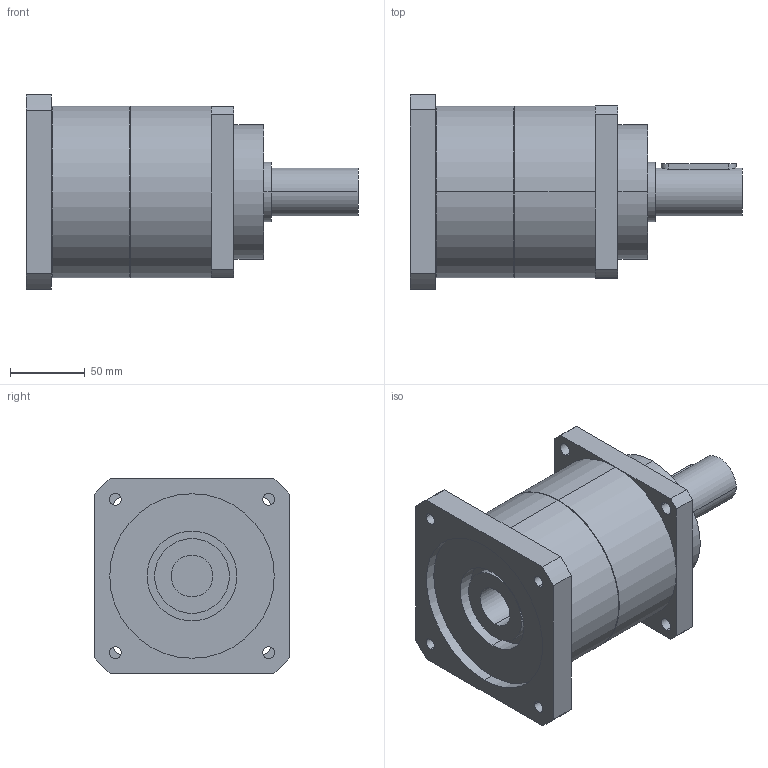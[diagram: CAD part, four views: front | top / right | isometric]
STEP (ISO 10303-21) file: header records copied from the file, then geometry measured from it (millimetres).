
FILE_DESCRIPTION(('CoCreate Modeling STEP Export'),'2;1');
FILE_NAME('GPT120_ig-3-4-5-7-10_32_B5A_28_P12.stp','2015-02-04T17:00:37',(''),(''),'CoCreate Modeling STEP processor for AP214 (Solid Model)','CoCreate Modeling 16.00C 25-Feb-2009 (C) Parametric Technology GmbH','');
FILE_SCHEMA(('AUTOMOTIVE_DESIGN { 1 0 10303 214 1 1 1 1 }'));
Length unit declared in the file: millimetre
Products named in the file (2): GPT120_ig-3-4-5-7-10_32_B5A_28_P12
Assembly tree (1 placements, depth 2):
  GPT120_ig-3-4-5-7-10_32_B5A_28_P12
    GPT120_ig-3-4-5-7-10_32_B5A_28_P12
Bounding box: 222 x 130 x 130 mm (x, y, z)
Volume: 1648974.9 mm3; surface area: 119512.6 mm2
Topology: 1 solids, 1 shells, 77 faces, 204 edges, 139 vertices
Faces by surface type: cylinder 46, plane 27, cone 4
Entity records: 2568 total; most frequent: CARTESIAN_POINT 759, ORIENTED_EDGE 408, DIRECTION 320, EDGE_CURVE 204, VERTEX_POINT 139, AXIS2_PLACEMENT_3D 118, EDGE_LOOP 103, VECTOR 84
